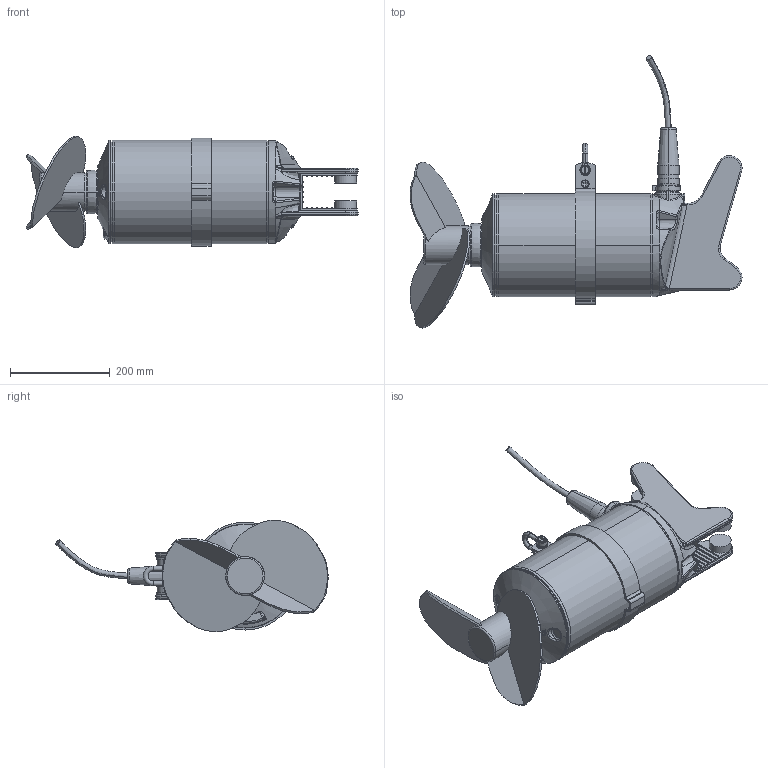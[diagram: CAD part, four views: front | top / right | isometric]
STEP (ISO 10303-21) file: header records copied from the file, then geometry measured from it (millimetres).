
FILE_DESCRIPTION (( 'STEP AP214' ), '1' );
FILE_NAME ('XRW330 Vkt.60 standart_MSD.STEP', '2017-11-02T14:10:02', ( '' ), ( '' ), 'SwSTEP 2.0', 'SolidWorks 2017', '' );
FILE_SCHEMA (( 'AUTOMOTIVE_DESIGN' ));
Length unit declared in the file: millimetre
Products named in the file (1): XRW330 Vkt.60 standart_MSD
Bounding box: 667.06 x 547.46 x 224.22 mm (x, y, z)
Volume: 14823643.6 mm3; surface area: 770926.2 mm2
Topology: 1 solids, 1 shells, 933 faces, 2305 edges, 1426 vertices
Faces by surface type: plane 352, bspline 244, cylinder 197, torus 86, cone 32, sphere 22
Entity records: 52034 total; most frequent: CARTESIAN_POINT 21448, ORIENTED_EDGE 4574, DIRECTION 3718, EDGE_CURVE 2287, VERTEX_POINT 1426, AXIS2_PLACEMENT_3D 1405, EDGE_LOOP 1009, UNCERTAINTY_MEASURE_WITH_UNIT 936
